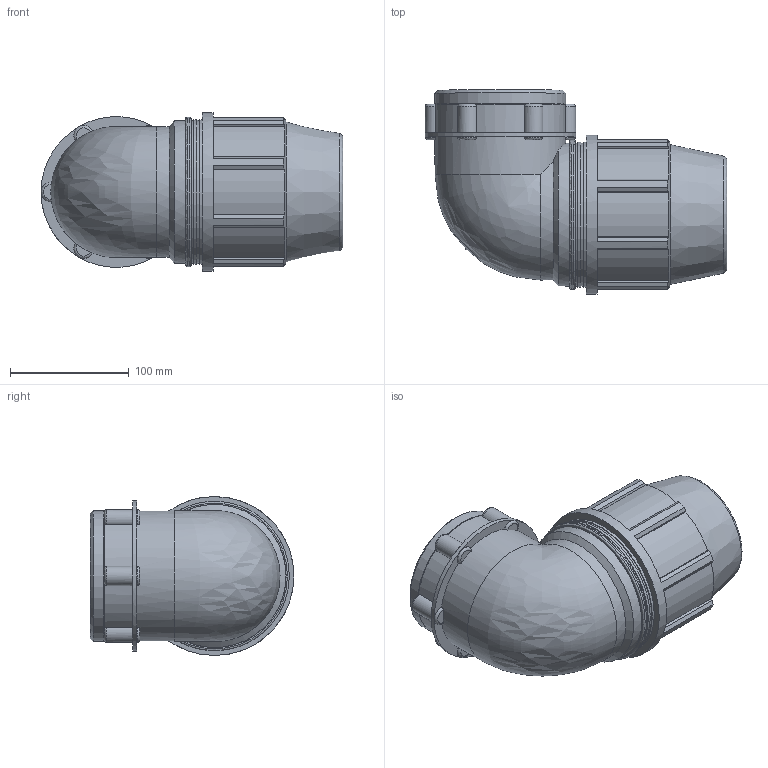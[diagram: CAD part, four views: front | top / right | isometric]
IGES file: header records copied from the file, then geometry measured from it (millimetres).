
Global section: file name: 0715060750300A.ipt; native system: Autodesk Inventor 2015; preprocessor: unknown; author: KIM; date: 20180325.201240; units: millimetre
Bounding box: 254.48 x 172 x 134 mm (x, y, z)
Volume: 1707085.8 mm3; surface area: 198809 mm2
Topology: 1 solids, 1 shells, 137 faces, 368 edges, 242 vertices
Faces by surface type: plane 71, cylinder 37, revolution 22, cone 6, bspline 1
Full cylindrical faces by diameter (mm): 110.404 x2, 120.6 x3, 122.181 x2, 125.96 x1, 126.964 x1, 134 x1
